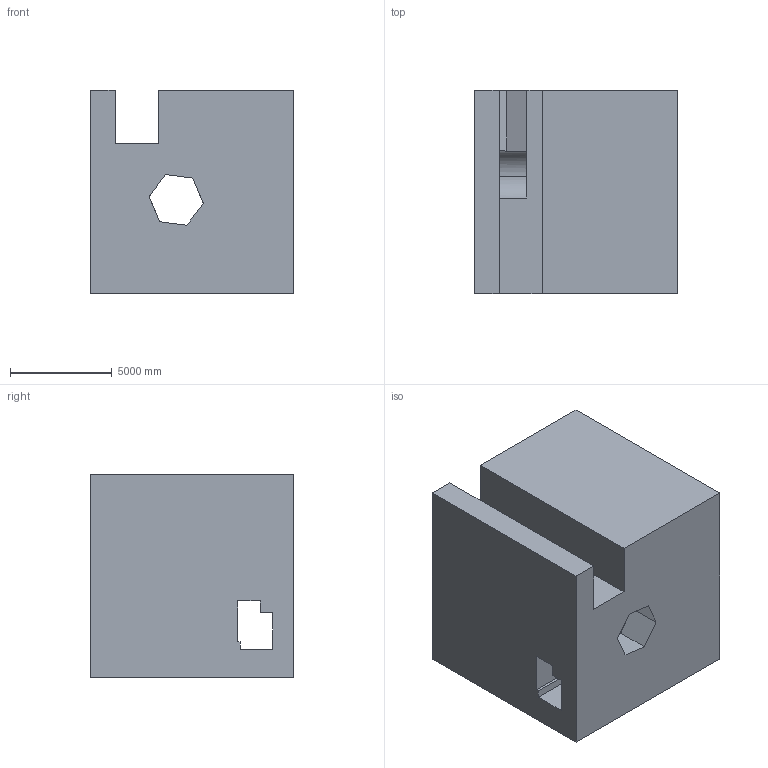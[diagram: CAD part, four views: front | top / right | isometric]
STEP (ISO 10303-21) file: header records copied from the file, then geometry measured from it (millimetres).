
FILE_DESCRIPTION (( 'STEP AP203' ), '1' );
FILE_NAME ('1525.STEP', '2022-08-18T15:03:05', ( 'user' ), ( '' ), 'SwSTEP 2.0', 'SolidWorks 2021', '' );
FILE_SCHEMA (( 'CONFIG_CONTROL_DESIGN' ));
Length unit declared in the file: centimetre
Products named in the file (1): 1525
Bounding box: 10000 x 10000 x 10000 mm (x, y, z)
Volume: 809684225021 mm3; surface area: 840135702.9 mm2
Topology: 1 solids, 1 shells, 38 faces, 123 edges, 82 vertices
Faces by surface type: plane 36, cylinder 2
Entity records: 1428 total; most frequent: CARTESIAN_POINT 280, ORIENTED_EDGE 246, DIRECTION 193, EDGE_CURVE 123, VECTOR 107, LINE 107, VERTEX_POINT 82, EDGE_LOOP 43
